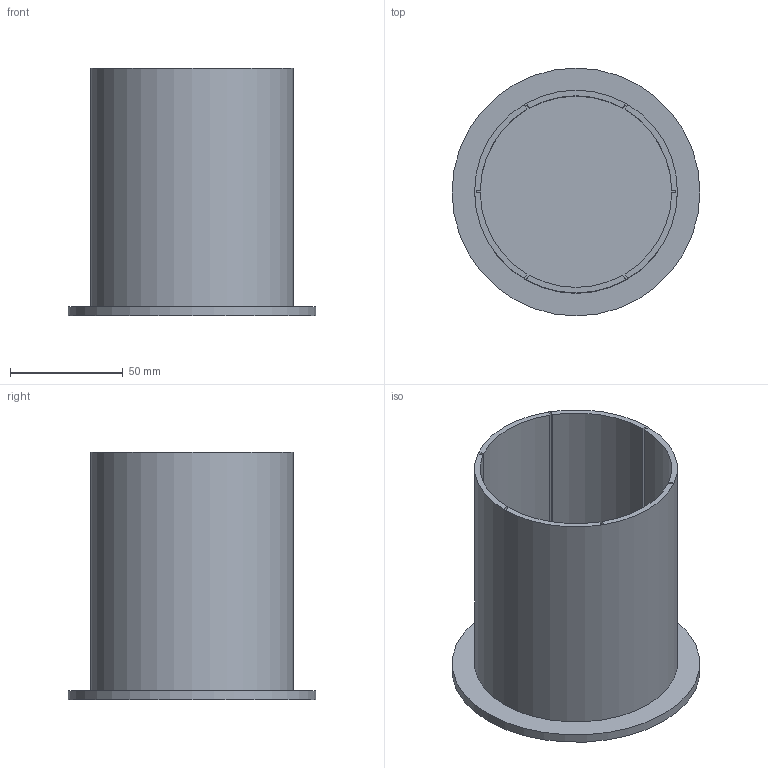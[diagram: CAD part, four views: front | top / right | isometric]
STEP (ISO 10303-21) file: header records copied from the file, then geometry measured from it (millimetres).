
FILE_DESCRIPTION(('Open CASCADE Model'),'2;1');
FILE_NAME('Open CASCADE Shape Model','2026-07-10T11:14:36',('Author'),( 'Open CASCADE'),'Open CASCADE STEP processor 7.9','Open CASCADE 7.9' ,'Unknown');
FILE_SCHEMA(('AUTOMOTIVE_DESIGN { 1 0 10303 214 1 1 1 1 }'));
Length unit declared in the file: millimetre
Products named in the file (1): Open CASCADE STEP translator 7.9 7
Bounding box: 110 x 110 x 110 mm (x, y, z)
Volume: 109484.1 mm3; surface area: 80960.4 mm2
Topology: 1 solids, 1 shells, 30 faces, 78 edges, 52 vertices
Faces by surface type: plane 22, cylinder 8
Full cylindrical faces by diameter (mm): 90 x1, 110 x1
Entity records: 1939 total; most frequent: CARTESIAN_POINT 383, DIRECTION 281, LINE 178, VECTOR 178, ORIENTED_EDGE 156, PCURVE 156, DEFINITIONAL_REPRESENTATION 156, EDGE_CURVE 78
